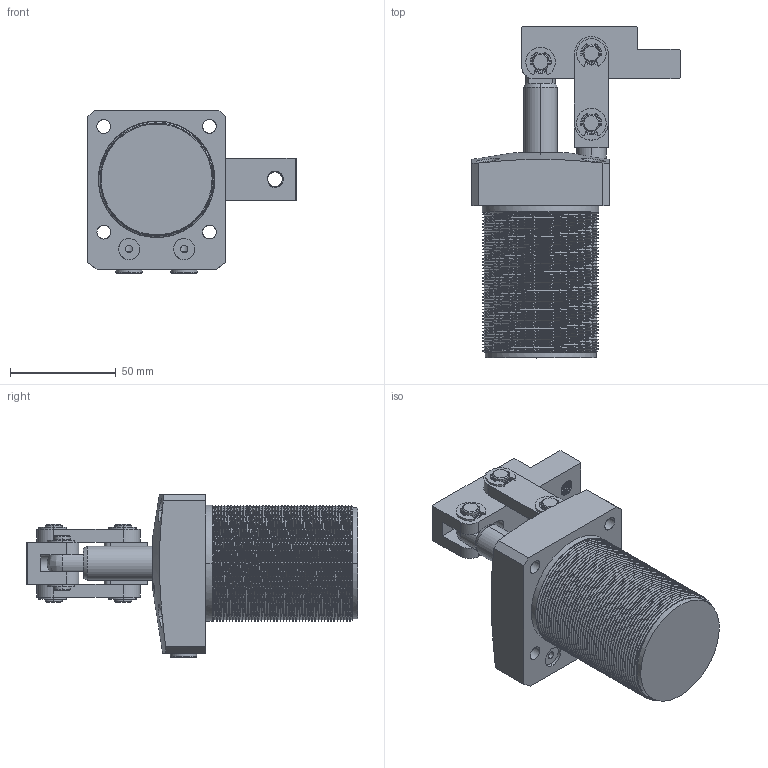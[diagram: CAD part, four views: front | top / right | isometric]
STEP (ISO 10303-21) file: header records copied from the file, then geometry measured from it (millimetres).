
FILE_DESCRIPTION (( 'STEP AP214' ), '1' );
FILE_NAME ('LHC01D-40L.STEP', '2019-04-19T12:26:04', ( '' ), ( '' ), 'SwSTEP 2.0', 'SolidWorks 2016', '' );
FILE_SCHEMA (( 'AUTOMOTIVE_DESIGN' ));
Length unit declared in the file: millimetre
Products named in the file (12): CPLCU-40YB; CPLCU-40ZCK; LHC01D40活塞杆; LHC01D-40L; 040L掛极; 黑芛_7; M4ningjin_4; LHC01D-40-08; LHC01D-40-05; CPLCU-40X; CPLCU-40DX; CPLCU-40LG
Assembly tree (24 placements, depth 2):
  LHC01D-40L
    LHC01D40活塞杆
    CPLCU-40ZCK
    CPLCU-40YB
    CPLCU-40LG  x2
    CPLCU-40DX
    CPLCU-40X  x2
    LHC01D-40-05  x6
    LHC01D-40-08  x6
    M4ningjin_4
    黑芛_7  x2
    040L掛极
Bounding box: 98.5 x 157 x 77 mm (x, y, z)
Volume: 281996.9 mm3; surface area: 82776.7 mm2
Topology: 24 solids, 24 shells, 1443 faces, 3700 edges, 2331 vertices
Faces by surface type: cylinder 651, cone 584, plane 179, bspline 25, torus 4
Entity records: 95234 total; most frequent: CARTESIAN_POINT 68932, ORIENTED_EDGE 6174, DIRECTION 4040, EDGE_CURVE 3087, VERTEX_POINT 1941, B_SPLINE_CURVE_WITH_KNOTS 1679, AXIS2_PLACEMENT_3D 1473, EDGE_LOOP 1256
